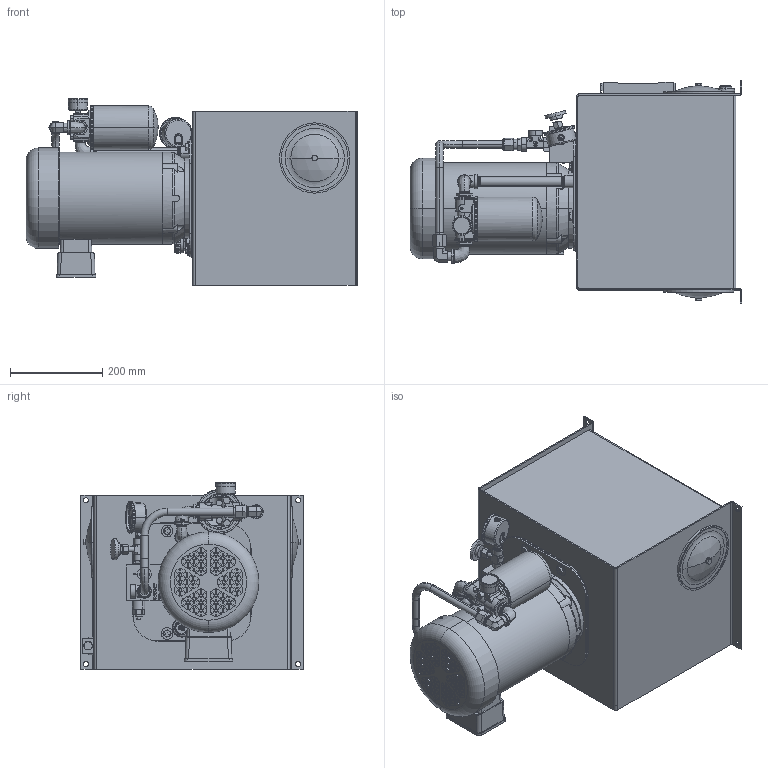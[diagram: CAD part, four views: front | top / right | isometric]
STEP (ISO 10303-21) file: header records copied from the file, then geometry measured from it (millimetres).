
FILE_DESCRIPTION (( 'STEP AP214' ), '1' );
FILE_NAME ('T10V-20-X-NN-F1-079.STEP', '2021-08-26T20:26:33', ( '' ), ( '' ), 'SwSTEP 2.0', 'SolidWorks 2020', '' );
FILE_SCHEMA (( 'AUTOMOTIVE_DESIGN' ));
Length unit declared in the file: inch
Products named in the file (1): T10V-20-X-NN-F1-079
Bounding box: 720.07 x 482.6 x 404.95 mm (x, y, z)
Surface area: 1900318.8 mm2 (no closed solid volume)
Topology: 0 solids, 96 shells, 1712 faces, 7435 edges, 5548 vertices
Faces by surface type: plane 901, cylinder 351, cone 309, torus 74, bspline 63, sphere 14
Entity records: 139343 total; most frequent: CARTESIAN_POINT 59372, DIRECTION 11419, ORIENTED_EDGE 10729, EDGE_CURVE 7434, VERTEX_POINT 5548, LINE 3931, VECTOR 3931, AXIS2_PLACEMENT_3D 3744
